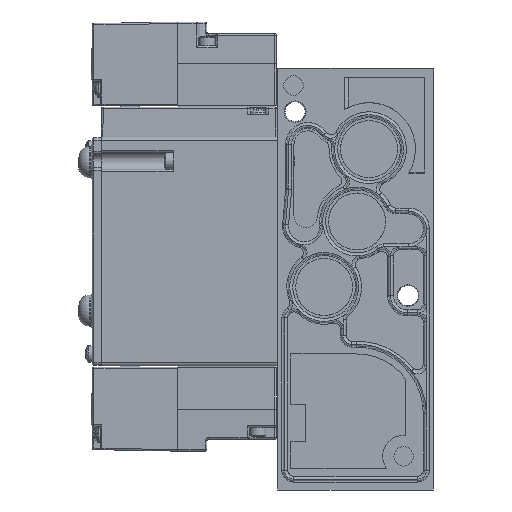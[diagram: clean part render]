
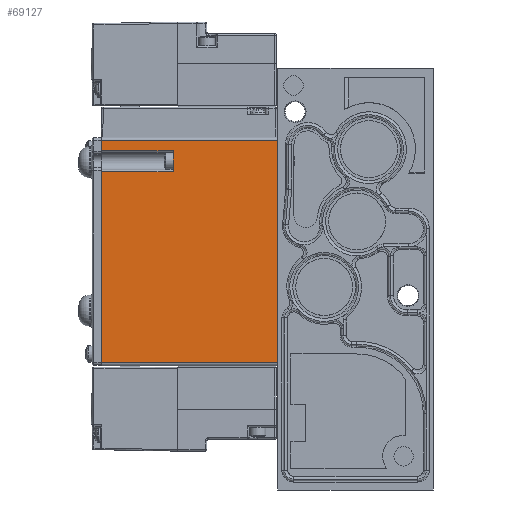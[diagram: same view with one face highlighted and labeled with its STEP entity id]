
A CAD part, left-side view. The second image highlights one B-rep face of the part: STEP entity #69127.
In plain terms, the highlighted planar face has unit normal (-1, 0, 0).
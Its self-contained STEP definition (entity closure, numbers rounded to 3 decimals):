
#166 = CARTESIAN_POINT ( 'NONE',  ( -12., 59., 37.25 ) ) ;
#2347 = LINE ( 'NONE', #75139, #39444 ) ;
#3167 = ORIENTED_EDGE ( 'NONE', *, *, #94794, .F. ) ;
#3524 = EDGE_CURVE ( 'NONE', #73949, #90800, #25586, .T. ) ;
#5167 = VERTEX_POINT ( 'NONE', #21246 ) ;
#5247 = VERTEX_POINT ( 'NONE', #96450 ) ;
#6994 = VECTOR ( 'NONE', #12113, 1000. ) ;
#7052 = DIRECTION ( 'NONE',  ( 0., 0., 1. ) ) ;
#7208 = CARTESIAN_POINT ( 'NONE',  ( -12., 35., 26.75 ) ) ;
#7976 = DIRECTION ( 'NONE',  ( 0., 1., 0. ) ) ;
#7978 = EDGE_CURVE ( 'NONE', #5247, #29986, #2347, .T. ) ;
#10459 = ORIENTED_EDGE ( 'NONE', *, *, #22467, .F. ) ;
#12113 = DIRECTION ( 'NONE',  ( 0., 0., 1. ) ) ;
#14483 = ORIENTED_EDGE ( 'NONE', *, *, #3524, .T. ) ;
#20465 = LINE ( 'NONE', #7208, #102273 ) ;
#21246 = CARTESIAN_POINT ( 'NONE',  ( -12., 0., 37.25 ) ) ;
#22467 = EDGE_CURVE ( 'NONE', #96874, #5247, #52914, .T. ) ;
#22989 = VECTOR ( 'NONE', #85962, 1000. ) ;
#23377 = DIRECTION ( 'NONE',  ( 0., 0., 1. ) ) ;
#24155 = EDGE_CURVE ( 'NONE', #5167, #29986, #103445, .T. ) ;
#25586 = LINE ( 'NONE', #77699, #22989 ) ;
#26356 = DIRECTION ( 'NONE',  ( 0., 0., 1. ) ) ;
#27134 = CARTESIAN_POINT ( 'NONE',  ( -12., 59., -37.25 ) ) ;
#29066 = ORIENTED_EDGE ( 'NONE', *, *, #62173, .F. ) ;
#29986 = VERTEX_POINT ( 'NONE', #76626 ) ;
#31239 = EDGE_CURVE ( 'NONE', #5167, #68096, #45108, .T. ) ;
#34792 = ORIENTED_EDGE ( 'NONE', *, *, #24155, .T. ) ;
#35344 = CARTESIAN_POINT ( 'NONE',  ( -12., 35., 33.75 ) ) ;
#36375 = CARTESIAN_POINT ( 'NONE',  ( -12., 0., -37.25 ) ) ;
#38577 = DIRECTION ( 'NONE',  ( 0., 0., -1. ) ) ;
#38752 = LINE ( 'NONE', #36375, #60417 ) ;
#39174 = CARTESIAN_POINT ( 'NONE',  ( -12., 0., -37.25 ) ) ;
#39267 = PLANE ( 'NONE',  #85068 ) ;
#39444 = VECTOR ( 'NONE', #26356, 1000. ) ;
#40742 = VECTOR ( 'NONE', #7976, 1000. ) ;
#44991 = CARTESIAN_POINT ( 'NONE',  ( -12., 59., 38.25 ) ) ;
#45108 = LINE ( 'NONE', #87413, #88459 ) ;
#51060 = CARTESIAN_POINT ( 'NONE',  ( -12., 59., 26.75 ) ) ;
#52914 = LINE ( 'NONE', #104936, #93737 ) ;
#56012 = DIRECTION ( 'NONE',  ( -1., 0., 0. ) ) ;
#57267 = ORIENTED_EDGE ( 'NONE', *, *, #31239, .F. ) ;
#59913 = EDGE_CURVE ( 'NONE', #98498, #68096, #38752, .T. ) ;
#60417 = VECTOR ( 'NONE', #85574, 1000. ) ;
#60607 = EDGE_LOOP ( 'NONE', ( #3167, #73431, #57267, #34792, #91643, #10459, #29066, #14483 ) ) ;
#62173 = EDGE_CURVE ( 'NONE', #73949, #96874, #20465, .T. ) ;
#63711 = DIRECTION ( 'NONE',  ( 0., 1., 0. ) ) ;
#68096 = VERTEX_POINT ( 'NONE', #39174 ) ;
#69127 = ADVANCED_FACE ( 'NONE', ( #103872 ), #39267, .T. ) ;
#73431 = ORIENTED_EDGE ( 'NONE', *, *, #59913, .T. ) ;
#73949 = VERTEX_POINT ( 'NONE', #105463 ) ;
#75139 = CARTESIAN_POINT ( 'NONE',  ( -12., 59., 38.25 ) ) ;
#76626 = CARTESIAN_POINT ( 'NONE',  ( -12., 59., 37.25 ) ) ;
#77699 = CARTESIAN_POINT ( 'NONE',  ( -12., 35., 26.75 ) ) ;
#85068 = AXIS2_PLACEMENT_3D ( 'NONE', #105083, #56012, #7052 ) ;
#85574 = DIRECTION ( 'NONE',  ( 0., -1., 0. ) ) ;
#85962 = DIRECTION ( 'NONE',  ( 0., 1., 0. ) ) ;
#87413 = CARTESIAN_POINT ( 'NONE',  ( -12., 0., 38.25 ) ) ;
#88459 = VECTOR ( 'NONE', #38577, 1000. ) ;
#90800 = VERTEX_POINT ( 'NONE', #51060 ) ;
#91313 = LINE ( 'NONE', #44991, #6994 ) ;
#91643 = ORIENTED_EDGE ( 'NONE', *, *, #7978, .F. ) ;
#93737 = VECTOR ( 'NONE', #63711, 1000. ) ;
#94794 = EDGE_CURVE ( 'NONE', #98498, #90800, #91313, .T. ) ;
#96450 = CARTESIAN_POINT ( 'NONE',  ( -12., 59., 33.75 ) ) ;
#96874 = VERTEX_POINT ( 'NONE', #35344 ) ;
#98498 = VERTEX_POINT ( 'NONE', #27134 ) ;
#102273 = VECTOR ( 'NONE', #23377, 1000. ) ;
#103445 = LINE ( 'NONE', #166, #40742 ) ;
#103872 = FACE_OUTER_BOUND ( 'NONE', #60607, .T. ) ;
#104936 = CARTESIAN_POINT ( 'NONE',  ( -12., 35., 33.75 ) ) ;
#105083 = CARTESIAN_POINT ( 'NONE',  ( -12., 59., 38.25 ) ) ;
#105463 = CARTESIAN_POINT ( 'NONE',  ( -12., 35., 26.75 ) ) ;
